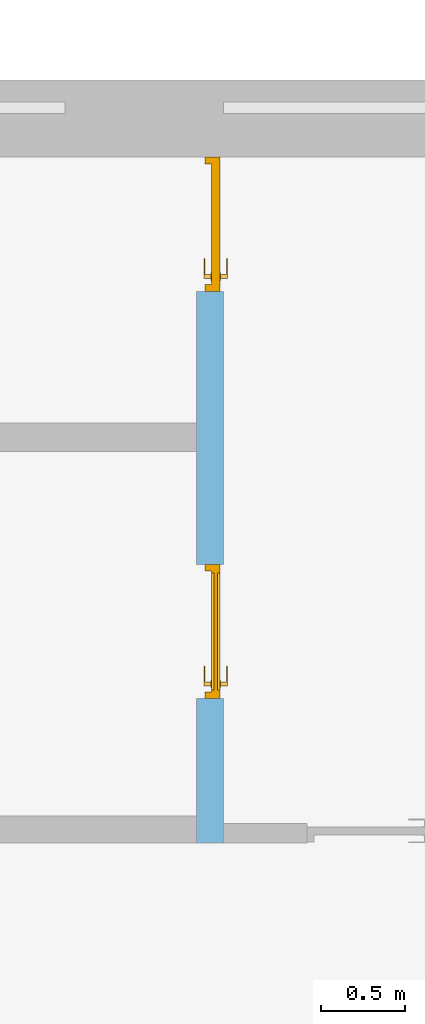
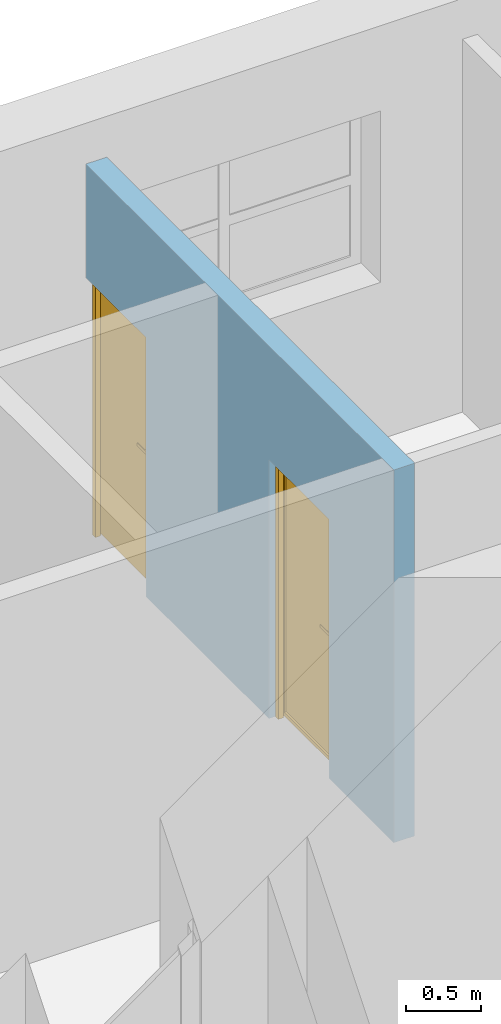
# One storey, part 36 of 49: 2 doors, 2 openings, plus 1 element that does not belong to this part.
"""IFC2X3 building model written with IfcOpenShell, lengths in millimetres."""

from ifc_helpers import new_model, entity, si_unit, converted_unit, derived_unit, direction, frame, frame_2d, origin, place, context, subcontext, project, spatial, rectangle, extrude, faceted_brep, source, transform, mapped, material, material_list, layer, layer_set, layer_usage, type_object, type_shapes, element, fill, save


model = new_model("IFC2X3")

# Units and contexts
model_context = context("Model", 3, precision=0.01, world=origin(), true_north=direction((6.12303176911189e-17, 1.0)))
body_context = subcontext(model_context, "Body", "Model", "MODEL_VIEW")
ifc_project = project(units=[si_unit("LENGTHUNIT", "METRE", prefix="MILLI"), si_unit("AREAUNIT", "SQUARE_METRE"), si_unit("VOLUMEUNIT", "CUBIC_METRE"), converted_unit("PLANEANGLEUNIT", "DEGREE", entity("IfcRatioMeasure", 0.0174532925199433), si_unit("PLANEANGLEUNIT", "RADIAN"), dimensions=[0, 0, 0, 0, 0, 0, 0]), si_unit("MASSUNIT", "GRAM", prefix="KILO"), derived_unit("MASSDENSITYUNIT", [(si_unit("MASSUNIT", "GRAM", prefix="KILO"), 1), (si_unit("LENGTHUNIT", "METRE"), -3)]), si_unit("TIMEUNIT", "SECOND"), si_unit("FREQUENCYUNIT", "HERTZ"), si_unit("THERMODYNAMICTEMPERATUREUNIT", "DEGREE_CELSIUS"), derived_unit("THERMALTRANSMITTANCEUNIT", [(si_unit("MASSUNIT", "GRAM", prefix="KILO"), 1), (si_unit("THERMODYNAMICTEMPERATUREUNIT", "KELVIN"), -1), (si_unit("TIMEUNIT", "SECOND"), -3)]), derived_unit("VOLUMETRICFLOWRATEUNIT", [(si_unit("LENGTHUNIT", "METRE"), 3), (si_unit("TIMEUNIT", "SECOND"), -1)]), si_unit("ELECTRICCURRENTUNIT", "AMPERE"), si_unit("ELECTRICVOLTAGEUNIT", "VOLT"), si_unit("POWERUNIT", "WATT"), si_unit("FORCEUNIT", "NEWTON", prefix="KILO"), si_unit("ILLUMINANCEUNIT", "LUX"), si_unit("LUMINOUSFLUXUNIT", "LUMEN"), si_unit("LUMINOUSINTENSITYUNIT", "CANDELA"), derived_unit("USERDEFINED", [(si_unit("MASSUNIT", "GRAM", prefix="KILO"), -1), (si_unit("LENGTHUNIT", "METRE"), -2), (si_unit("TIMEUNIT", "SECOND"), 3), (si_unit("LUMINOUSFLUXUNIT", "LUMEN"), 1)]), derived_unit("LINEARVELOCITYUNIT", [(si_unit("LENGTHUNIT", "METRE"), 1), (si_unit("TIMEUNIT", "SECOND"), -1)]), si_unit("PRESSUREUNIT", "PASCAL"), derived_unit("USERDEFINED", [(si_unit("LENGTHUNIT", "METRE"), -2), (si_unit("MASSUNIT", "GRAM", prefix="KILO"), 1), (si_unit("TIMEUNIT", "SECOND"), -2)])], contexts=[model_context])

# Site, building, storey
site_placement = place(None, frame((-151.875543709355, 2715.0, 0.0)))
site = spatial("IfcSite", under=ifc_project, at=site_placement, Name="Surface", CompositionType="ELEMENT")
building_placement = place(site_placement, origin())
building = spatial("IfcBuilding", under=site, at=building_placement, CompositionType="ELEMENT")
storey_placement = place(building_placement, origin())
storey = spatial("IfcBuildingStorey", under=building, at=storey_placement, Name="1 korrus", CompositionType="ELEMENT", Elevation=3.0969999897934e-10)

# Wall, openings, doors
ifc_material_1 = material(Name="Bauroc")
ifc_layer_1 = layer(ifc_material_1, 150.0)
ifc_material_2 = material(Name="Keraamiline_plaat")
ifc_layer_2 = layer(ifc_material_2, 10.0)
ifc_layer_set = layer_set([ifc_layer_1, ifc_layer_2], Name="Basic Wall:SS-8_Bauroc sein niiske ja tava ruumide vahel")
ifc_layer_usage = layer_usage(ifc_layer_set, "AXIS2", "POSITIVE", -80.0)
wall_type = type_object("IfcWallType", Name="Basic Wall:SS-8_Bauroc sein niiske ja tava ruumide vahel", PredefinedType="STANDARD", material=ifc_layer_set)
wall_placement = place(storey_placement, frame((11424.3626852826, 8061.3062297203, 0.0), z_axis=(0.0, 0.0, 1.0), x_axis=(0.0, 1.0, 0.0)))
wall = element("IfcWallStandardCase", 1, at=wall_placement, inside=storey, type_object=wall_type, material=ifc_layer_usage, Name="Basic Wall:SS-8_Bauroc sein niiske ja tava ruumide vahel", ObjectType="Basic Wall:SS-8_Bauroc sein niiske ja tava ruumide vahel", context=body_context, shape_type="SweptSolid", body=[
    extrude(rectangle(XDim=4088.69377027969, YDim=159.999999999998, at=frame_2d((2044.34688513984, 4.90274487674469e-13), x_axis=(-1.0, 0.0))), origin(), (0.0, 0.0, 1.0), 3020.0),
])
opening_1_placement = place(wall_placement, frame((4088.69377027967, 80.0, 0.0)))
opening_1 = element("IfcOpeningElement", 2, at=opening_1_placement, cuts=wall, Name="Ühepoolsed:SU-05:1", ObjectType="Opening", context=body_context, shape_type="SweptSolid", body=[
    extrude(rectangle(XDim=2099.99999999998, YDim=800.0, at=frame_2d((1049.99999999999, 400.0), x_axis=(1.0, 0.0))), frame((0.0, 0.0, 0.0), z_axis=(0.0, -1.0, 0.0), x_axis=(0.0, 0.0, 1.0)), (0.0, 0.0, 1.0), 160.0),
])
opening_2_placement = place(wall_placement, frame((1660.0, 80.0, 0.0)))
opening_2 = element("IfcOpeningElement", 3, at=opening_2_placement, cuts=wall, Name="Ühepoolsed:SU-08.:1", ObjectType="Opening", context=body_context, shape_type="SweptSolid", body=[
    extrude(rectangle(XDim=2099.99999999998, YDim=800.0, at=frame_2d((1049.99999999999, 400.0), x_axis=(1.0, 0.0))), frame((0.0, 0.0, 0.0), z_axis=(0.0, -1.0, 0.0), x_axis=(0.0, 0.0, 1.0)), (0.0, 0.0, 1.0), 160.0),
])
ifc_material_3 = material(Name="_Alumiiniumprofiil - must")
ifc_material_4 = material(Name="__Uks_hele tamm")
ifc_material_list_1 = material_list([ifc_material_3, ifc_material_4])
ifc_material_list_2 = material_list([ifc_material_3, ifc_material_4])
door_style_1 = type_object("IfcDoorStyle", Name="SU-05", ConstructionType="NOTDEFINED", OperationType="FOLDING_TO_LEFT", ParameterTakesPrecedence=False, Sizeable=False, material=ifc_material_list_2)
shared_shape_1 = source(origin(), body_context, "Body", "Brep", [
    faceted_brep([(700.0, 50.0, 1112.5), (605.0, 50.0, 1112.5), (605.0, 45.0, 1112.5), (725.0, 45.0, 1112.5), (725.0, 88.0, 1112.5), (700.0, 88.0, 1112.5), (700.0, 50.0, 1087.5), (700.0, 88.0, 1087.5), (725.0, 88.0, 1087.5), (725.0, 45.0, 1087.5), (605.0, 45.0, 1087.5), (605.0, 50.0, 1087.5)], [[[0, 1, 2, 3, 4, 5]], [[6, 7, 8, 9, 10, 11]], [[5, 7, 6, 0]], [[4, 8, 7, 5]], [[3, 9, 8, 4]], [[2, 10, 9, 3]], [[1, 11, 10, 2]], [[0, 6, 11, 1]]]),
    faceted_brep([(687.500000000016, 88.0, 1137.5), (737.500000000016, 88.0, 1137.5), (737.500000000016, 90.0, 1137.5), (687.500000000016, 90.0, 1137.5), (687.500000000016, 88.0, 1017.5), (687.500000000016, 90.0, 1017.5), (737.500000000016, 90.0, 1017.5), (737.500000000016, 88.0, 1017.5)], [[[0, 1, 2, 3]], [[4, 5, 6, 7]], [[3, 5, 4, 0]], [[2, 6, 5, 3]], [[1, 7, 6, 2]], [[0, 4, 7, 1]]]),
    faceted_brep([(700.0, 180.0, 1112.5), (700.0, 142.0, 1112.5), (725.0, 142.0, 1112.5), (725.0, 185.0, 1112.5), (605.0, 185.0, 1112.5), (605.0, 180.0, 1112.5), (700.0, 180.0, 1087.5), (605.0, 180.0, 1087.5), (605.0, 185.0, 1087.5), (725.0, 185.0, 1087.5), (725.0, 142.0, 1087.5), (700.0, 142.0, 1087.5)], [[[0, 1, 2, 3, 4, 5]], [[6, 7, 8, 9, 10, 11]], [[1, 0, 6, 11]], [[2, 1, 11, 10]], [[3, 2, 10, 9]], [[4, 3, 9, 8]], [[5, 4, 8, 7]], [[0, 5, 7, 6]]]),
    faceted_brep([(687.500000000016, 142.0, 1137.5), (687.500000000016, 140.0, 1137.5), (737.500000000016, 140.0, 1137.5), (737.500000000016, 142.0, 1137.5), (687.500000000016, 142.0, 1017.5), (737.500000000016, 142.0, 1017.5), (737.500000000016, 140.0, 1017.5), (687.500000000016, 140.0, 1017.5)], [[[0, 1, 2, 3]], [[4, 5, 6, 7]], [[1, 0, 4, 7]], [[2, 1, 7, 6]], [[3, 2, 6, 5]], [[0, 3, 5, 4]]]),
    faceted_brep([(0.0, 50.0, 0.0), (0.0, 140.0, 0.0), (25.0, 140.0, 0.0), (25.0, 90.0, 0.0), (40.0, 90.0, 0.0), (40.0, 50.0, 0.0), (40.0, 50.0, 2060.0), (760.0, 50.0, 2060.0), (760.0, 50.0, 0.0), (800.0, 50.0, 0.0), (800.0, 50.0, 2100.0), (0.0, 50.0, 2100.0), (40.0, 90.0, 2060.0), (25.0, 90.0, 2075.0), (775.0, 90.0, 2075.0), (775.0, 90.0, 0.0), (760.0, 90.0, 0.0), (760.0, 90.0, 2060.0), (25.0, 140.0, 2075.0), (0.0, 140.0, 2100.0), (800.0, 140.0, 2100.0), (800.0, 140.0, 0.0), (775.0, 140.0, 0.0), (775.0, 140.0, 2075.0)], [[[0, 1, 2, 3, 4, 5]], [[5, 6, 7, 8, 9, 10, 11, 0]], [[4, 12, 6, 5]], [[3, 13, 14, 15, 16, 17, 12, 4]], [[2, 18, 13, 3]], [[1, 19, 20, 21, 22, 23, 18, 2]], [[0, 11, 19, 1]], [[9, 21, 20, 10]], [[8, 16, 15, 22, 21, 9]], [[7, 17, 16, 8]], [[14, 23, 22, 15]], [[6, 12, 17, 7]], [[13, 18, 23, 14]], [[10, 20, 19, 11]]]),
    faceted_brep([(775.0, 90.0, 2075.0), (25.0, 90.0, 2075.0), (25.0, 90.0, 20.0), (775.0, 90.0, 20.0), (775.0, 140.0, 2075.0), (775.0, 140.0, 20.0), (25.0, 140.0, 20.0), (25.0, 140.0, 2075.0)], [[[0, 1, 2, 3]], [[4, 5, 6, 7]], [[3, 5, 4, 0]], [[2, 6, 5, 3]], [[1, 7, 6, 2]], [[0, 4, 7, 1]]]),
])
type_shapes(door_style_1, [shared_shape_1])
door_1_placement = place(opening_1_placement, frame((0.0, 0.0, 0.0), z_axis=(0.0, 0.0, 1.0), x_axis=(-1.0, 0.0, 0.0)))
door_1 = element("IfcDoor", 4, at=door_1_placement, inside=storey, type_object=door_style_1, material=ifc_material_list_1, Name="Ühepoolsed:SU-05", ObjectType="SU-05", OverallHeight=2099.99999999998, OverallWidth=800.0, context=body_context, shape_type="MappedRepresentation", body=[
    mapped(shared_shape_1, transform((0.0, 0.0, 0.0), scale=1.0)),
])
fill(opening_1, door_1)
ifc_material_5 = material(Name="Glass")
ifc_material_list_3 = material_list([ifc_material_3, ifc_material_4, ifc_material_5])
ifc_material_list_4 = material_list([ifc_material_3, ifc_material_4, ifc_material_5])
door_style_2 = type_object("IfcDoorStyle", Name="SU-08.", ConstructionType="NOTDEFINED", OperationType="FOLDING_TO_LEFT", ParameterTakesPrecedence=False, Sizeable=False, material=ifc_material_list_4)
shared_shape_2 = source(origin(), body_context, "Body", "Brep", [
    faceted_brep([(700.0, 50.0, 1112.5), (605.0, 50.0, 1112.5), (605.0, 45.0, 1112.5), (725.0, 45.0, 1112.5), (725.0, 88.0, 1112.5), (700.0, 88.0, 1112.5), (700.0, 50.0, 1087.5), (700.0, 88.0, 1087.5), (725.0, 88.0, 1087.5), (725.0, 45.0, 1087.5), (605.0, 45.0, 1087.5), (605.0, 50.0, 1087.5)], [[[0, 1, 2, 3, 4, 5]], [[6, 7, 8, 9, 10, 11]], [[5, 7, 6, 0]], [[4, 8, 7, 5]], [[3, 9, 8, 4]], [[2, 10, 9, 3]], [[1, 11, 10, 2]], [[0, 6, 11, 1]]]),
    faceted_brep([(687.500000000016, 88.0, 1137.5), (737.500000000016, 88.0, 1137.5), (737.500000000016, 90.0, 1137.5), (687.500000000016, 90.0, 1137.5), (687.500000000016, 88.0, 1017.5), (687.500000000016, 90.0, 1017.5), (737.500000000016, 90.0, 1017.5), (737.500000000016, 88.0, 1017.5)], [[[0, 1, 2, 3]], [[4, 5, 6, 7]], [[3, 5, 4, 0]], [[2, 6, 5, 3]], [[1, 7, 6, 2]], [[0, 4, 7, 1]]]),
    faceted_brep([(700.0, 180.0, 1112.5), (700.0, 142.0, 1112.5), (725.0, 142.0, 1112.5), (725.0, 185.0, 1112.5), (605.0, 185.0, 1112.5), (605.0, 180.0, 1112.5), (700.0, 180.0, 1087.5), (605.0, 180.0, 1087.5), (605.0, 185.0, 1087.5), (725.0, 185.0, 1087.5), (725.0, 142.0, 1087.5), (700.0, 142.0, 1087.5)], [[[0, 1, 2, 3, 4, 5]], [[6, 7, 8, 9, 10, 11]], [[1, 0, 6, 11]], [[2, 1, 11, 10]], [[3, 2, 10, 9]], [[4, 3, 9, 8]], [[5, 4, 8, 7]], [[0, 5, 7, 6]]]),
    faceted_brep([(687.500000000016, 142.0, 1137.5), (687.500000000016, 140.0, 1137.5), (737.500000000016, 140.0, 1137.5), (737.500000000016, 142.0, 1137.5), (687.500000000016, 142.0, 1017.5), (737.500000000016, 142.0, 1017.5), (737.500000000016, 140.0, 1017.5), (687.500000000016, 140.0, 1017.5)], [[[0, 1, 2, 3]], [[4, 5, 6, 7]], [[1, 0, 4, 7]], [[2, 1, 7, 6]], [[3, 2, 6, 5]], [[0, 3, 5, 4]]]),
    faceted_brep([(0.0, 50.0, 0.0), (0.0, 140.0, 0.0), (25.0, 140.0, 0.0), (25.0, 90.0, 0.0), (40.0, 90.0, 0.0), (40.0, 50.0, 0.0), (40.0, 50.0, 2060.0), (760.0, 50.0, 2060.0), (760.0, 50.0, 0.0), (800.0, 50.0, 0.0), (800.0, 50.0, 2100.0), (0.0, 50.0, 2100.0), (40.0, 90.0, 2060.0), (25.0, 90.0, 2075.0), (775.0, 90.0, 2075.0), (775.0, 90.0, 0.0), (760.0, 90.0, 0.0), (760.0, 90.0, 2060.0), (25.0, 140.0, 2075.0), (0.0, 140.0, 2100.0), (800.0, 140.0, 2100.0), (800.0, 140.0, 0.0), (775.0, 140.0, 0.0), (775.0, 140.0, 2075.0)], [[[0, 1, 2, 3, 4, 5]], [[5, 6, 7, 8, 9, 10, 11, 0]], [[4, 12, 6, 5]], [[3, 13, 14, 15, 16, 17, 12, 4]], [[2, 18, 13, 3]], [[1, 19, 20, 21, 22, 23, 18, 2]], [[0, 11, 19, 1]], [[9, 21, 20, 10]], [[8, 16, 15, 22, 21, 9]], [[7, 17, 16, 8]], [[14, 23, 22, 15]], [[6, 12, 17, 7]], [[13, 18, 23, 14]], [[10, 20, 19, 11]]]),
    faceted_brep([(50.0, 105.0, 50.0), (750.0, 105.0, 50.0), (750.0, 105.0, 2050.0), (50.0, 105.0, 2050.0), (50.0, 125.0, 50.0), (50.0, 125.0, 2050.0), (750.0, 125.0, 2050.0), (750.0, 125.0, 50.0)], [[[0, 1, 2, 3]], [[4, 5, 6, 7]], [[3, 5, 4, 0]], [[2, 6, 5, 3]], [[1, 7, 6, 2]], [[0, 4, 7, 1]]]),
    faceted_brep([(25.0, 90.0, 20.0), (775.0, 90.0, 20.0), (775.0, 90.0, 2075.0), (25.0, 90.0, 2075.0), (750.0, 90.0, 50.0), (50.0, 90.0, 50.0), (50.0, 90.0, 2050.0), (750.0, 90.0, 2050.0), (25.0, 140.0, 20.0), (25.0, 140.0, 2075.0), (775.0, 140.0, 2075.0), (775.0, 140.0, 20.0), (750.0, 140.0, 2050.0), (50.0, 140.0, 2050.0), (50.0, 140.0, 50.0), (750.0, 140.0, 50.0)], [[[0, 1, 2, 3], [4, 5, 6, 7]], [[8, 9, 10, 11], [12, 13, 14, 15]], [[3, 9, 8, 0]], [[2, 10, 9, 3]], [[1, 11, 10, 2]], [[0, 8, 11, 1]], [[12, 15, 4, 7]], [[15, 14, 5, 4]], [[14, 13, 6, 5]], [[7, 6, 13, 12]]]),
])
type_shapes(door_style_2, [shared_shape_2])
door_2_placement = place(opening_2_placement, frame((0.0, 0.0, 0.0), z_axis=(0.0, 0.0, 1.0), x_axis=(-1.0, 0.0, 0.0)))
door_2 = element("IfcDoor", 5, at=door_2_placement, inside=storey, type_object=door_style_2, material=ifc_material_list_3, Name="Ühepoolsed:SU-08.", ObjectType="SU-08.", OverallHeight=2099.99999999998, OverallWidth=800.0, context=body_context, shape_type="MappedRepresentation", body=[
    mapped(shared_shape_2, transform((0.0, 0.0, 0.0), scale=1.0)),
])
fill(opening_2, door_2)

save(model, "model.ifc")
